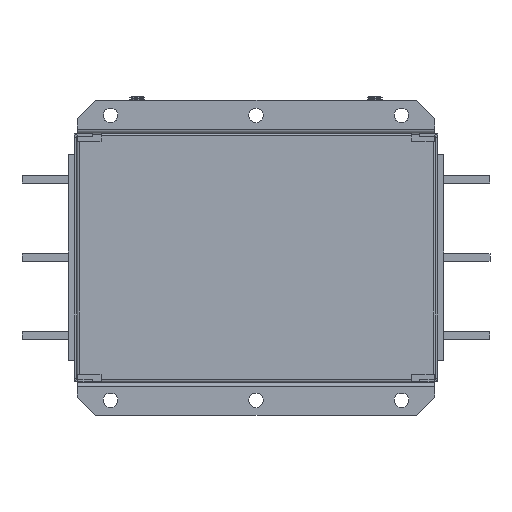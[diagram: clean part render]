
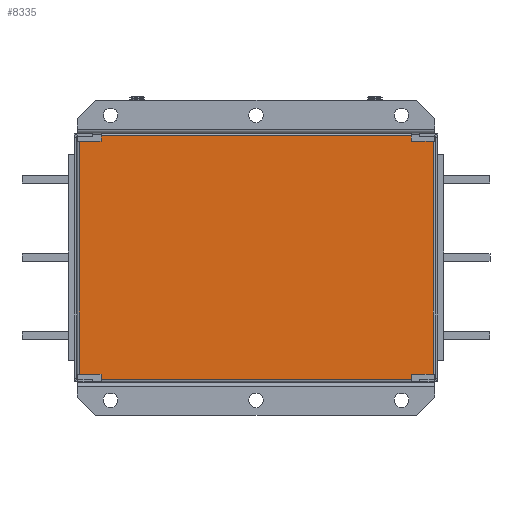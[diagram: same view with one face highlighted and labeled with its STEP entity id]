
A CAD part, front view. The second image highlights one B-rep face of the part: STEP entity #8335.
In plain terms, the highlighted planar face has unit normal (0, -1, 0) as drawn and (0, 1, 0) by its records, which use the part's own axes.
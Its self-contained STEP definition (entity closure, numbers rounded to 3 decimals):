
#793 = ORIENTED_EDGE ( 'NONE', *, *, #13365, .T. ) ;
#1283 = EDGE_CURVE ( 'NONE', #4107, #19736, #9332, .T. ) ;
#1443 = ORIENTED_EDGE ( 'NONE', *, *, #25929, .F. ) ;
#2033 = LINE ( 'NONE', #25691, #14030 ) ;
#2334 = VECTOR ( 'NONE', #23763, 1000. ) ;
#2530 = CARTESIAN_POINT ( 'NONE',  ( 128., 1.2, -100.7 ) ) ;
#2684 = VECTOR ( 'NONE', #6180, 1000. ) ;
#2722 = VERTEX_POINT ( 'NONE', #26342 ) ;
#3482 = VECTOR ( 'NONE', #14536, 1000. ) ;
#3497 = VECTOR ( 'NONE', #13075, 1000. ) ;
#3698 = CARTESIAN_POINT ( 'NONE',  ( 128., 1.2, 96. ) ) ;
#4107 = VERTEX_POINT ( 'NONE', #23779 ) ;
#4464 = ORIENTED_EDGE ( 'NONE', *, *, #13178, .T. ) ;
#4770 = DIRECTION ( 'NONE',  ( -1., 0., 0. ) ) ;
#5266 = DIRECTION ( 'NONE',  ( 1., 0., 0. ) ) ;
#5511 = VECTOR ( 'NONE', #4770, 1000. ) ;
#5725 = VERTEX_POINT ( 'NONE', #14591 ) ;
#6016 = EDGE_CURVE ( 'NONE', #19736, #23115, #21441, .T. ) ;
#6180 = DIRECTION ( 'NONE',  ( 0., 0., 1. ) ) ;
#8186 = CARTESIAN_POINT ( 'NONE',  ( -128., 1.2, -100.7 ) ) ;
#8319 = DIRECTION ( 'NONE',  ( 0., 0., -1. ) ) ;
#8335 = ADVANCED_FACE ( 'NONE', ( #22016 ), #19738, .T. ) ;
#9035 = ORIENTED_EDGE ( 'NONE', *, *, #20178, .F. ) ;
#9332 = LINE ( 'NONE', #23352, #27242 ) ;
#9375 = LINE ( 'NONE', #10715, #2684 ) ;
#10449 = LINE ( 'NONE', #21752, #27686 ) ;
#10648 = EDGE_CURVE ( 'NONE', #20672, #12234, #14837, .T. ) ;
#10715 = CARTESIAN_POINT ( 'NONE',  ( 128., 1.2, -101.3 ) ) ;
#10824 = VECTOR ( 'NONE', #5266, 1000. ) ;
#11907 = CARTESIAN_POINT ( 'NONE',  ( -146.075, 1.2, -96. ) ) ;
#12234 = VERTEX_POINT ( 'NONE', #8186 ) ;
#12247 = CARTESIAN_POINT ( 'NONE',  ( -128., 1.2, 96. ) ) ;
#12262 = DIRECTION ( 'NONE',  ( 0., 0., 1. ) ) ;
#13075 = DIRECTION ( 'NONE',  ( 0., 0., 1. ) ) ;
#13178 = EDGE_CURVE ( 'NONE', #16078, #23115, #22785, .T. ) ;
#13217 = EDGE_CURVE ( 'NONE', #27296, #19590, #2033, .T. ) ;
#13365 = EDGE_CURVE ( 'NONE', #4107, #2722, #10449, .T. ) ;
#13916 = CARTESIAN_POINT ( 'NONE',  ( 128., 1.2, 96. ) ) ;
#14030 = VECTOR ( 'NONE', #12262, 1000. ) ;
#14096 = EDGE_CURVE ( 'NONE', #23102, #5725, #9375, .T. ) ;
#14536 = DIRECTION ( 'NONE',  ( -1., 0., 0. ) ) ;
#14591 = CARTESIAN_POINT ( 'NONE',  ( 128., 1.2, -96. ) ) ;
#14688 = EDGE_LOOP ( 'NONE', ( #19910, #22814, #18940, #27450, #26805, #1443, #9035, #4464, #15186, #22699, #793, #26527 ) ) ;
#14837 = LINE ( 'NONE', #16550, #26019 ) ;
#15186 = ORIENTED_EDGE ( 'NONE', *, *, #6016, .F. ) ;
#15368 = EDGE_CURVE ( 'NONE', #5725, #2722, #19151, .T. ) ;
#15544 = CARTESIAN_POINT ( 'NONE',  ( 128., 1.2, 100.7 ) ) ;
#16078 = VERTEX_POINT ( 'NONE', #24409 ) ;
#16096 = CARTESIAN_POINT ( 'NONE',  ( -128., 1.2, -96. ) ) ;
#16534 = CARTESIAN_POINT ( 'NONE',  ( -128., 1.2, 100.7 ) ) ;
#16550 = CARTESIAN_POINT ( 'NONE',  ( -128., 1.2, -101.3 ) ) ;
#16747 = LINE ( 'NONE', #23240, #28619 ) ;
#16752 = CARTESIAN_POINT ( 'NONE',  ( -146.075, 1.2, 96. ) ) ;
#17522 = CARTESIAN_POINT ( 'NONE',  ( 128., 1.2, -96. ) ) ;
#17656 = EDGE_CURVE ( 'NONE', #23102, #12234, #28724, .T. ) ;
#18460 = VECTOR ( 'NONE', #24249, 1000. ) ;
#18680 = DIRECTION ( 'NONE',  ( 0., 0., -1. ) ) ;
#18940 = ORIENTED_EDGE ( 'NONE', *, *, #10648, .F. ) ;
#19070 = DIRECTION ( 'NONE',  ( 0., 0., 1. ) ) ;
#19151 = LINE ( 'NONE', #17522, #18460 ) ;
#19256 = DIRECTION ( 'NONE',  ( 0., 1., 0. ) ) ;
#19315 = VERTEX_POINT ( 'NONE', #26965 ) ;
#19590 = VERTEX_POINT ( 'NONE', #16752 ) ;
#19736 = VERTEX_POINT ( 'NONE', #3698 ) ;
#19738 = PLANE ( 'NONE',  #28735 ) ;
#19910 = ORIENTED_EDGE ( 'NONE', *, *, #14096, .F. ) ;
#20178 = EDGE_CURVE ( 'NONE', #16078, #19315, #16747, .T. ) ;
#20426 = CARTESIAN_POINT ( 'NONE',  ( -146.675, 1.2, -101.3 ) ) ;
#20672 = VERTEX_POINT ( 'NONE', #16096 ) ;
#21422 = LINE ( 'NONE', #12247, #3482 ) ;
#21441 = LINE ( 'NONE', #13916, #3497 ) ;
#21537 = CARTESIAN_POINT ( 'NONE',  ( -146.675, 1.2, -96. ) ) ;
#21752 = CARTESIAN_POINT ( 'NONE',  ( 146.075, 1.2, 96. ) ) ;
#22016 = FACE_OUTER_BOUND ( 'NONE', #14688, .T. ) ;
#22317 = EDGE_CURVE ( 'NONE', #27296, #20672, #26217, .T. ) ;
#22608 = DIRECTION ( 'NONE',  ( 0., 0., -1. ) ) ;
#22699 = ORIENTED_EDGE ( 'NONE', *, *, #1283, .F. ) ;
#22785 = LINE ( 'NONE', #16534, #10824 ) ;
#22814 = ORIENTED_EDGE ( 'NONE', *, *, #17656, .T. ) ;
#23102 = VERTEX_POINT ( 'NONE', #28926 ) ;
#23115 = VERTEX_POINT ( 'NONE', #15544 ) ;
#23240 = CARTESIAN_POINT ( 'NONE',  ( -128., 1.2, 96. ) ) ;
#23352 = CARTESIAN_POINT ( 'NONE',  ( 146.675, 1.2, 96. ) ) ;
#23763 = DIRECTION ( 'NONE',  ( 1., 0., 0. ) ) ;
#23779 = CARTESIAN_POINT ( 'NONE',  ( 146.075, 1.2, 96. ) ) ;
#24249 = DIRECTION ( 'NONE',  ( 1., 0., 0. ) ) ;
#24409 = CARTESIAN_POINT ( 'NONE',  ( -128., 1.2, 100.7 ) ) ;
#25691 = CARTESIAN_POINT ( 'NONE',  ( -146.075, 1.2, -96. ) ) ;
#25929 = EDGE_CURVE ( 'NONE', #19315, #19590, #21422, .T. ) ;
#26019 = VECTOR ( 'NONE', #22608, 1000. ) ;
#26217 = LINE ( 'NONE', #21537, #2334 ) ;
#26342 = CARTESIAN_POINT ( 'NONE',  ( 146.075, 1.2, -96. ) ) ;
#26527 = ORIENTED_EDGE ( 'NONE', *, *, #15368, .F. ) ;
#26805 = ORIENTED_EDGE ( 'NONE', *, *, #13217, .T. ) ;
#26965 = CARTESIAN_POINT ( 'NONE',  ( -128., 1.2, 96. ) ) ;
#27242 = VECTOR ( 'NONE', #28544, 1000. ) ;
#27296 = VERTEX_POINT ( 'NONE', #11907 ) ;
#27450 = ORIENTED_EDGE ( 'NONE', *, *, #22317, .F. ) ;
#27686 = VECTOR ( 'NONE', #8319, 1000. ) ;
#28544 = DIRECTION ( 'NONE',  ( -1., 0., 0. ) ) ;
#28619 = VECTOR ( 'NONE', #18680, 1000. ) ;
#28724 = LINE ( 'NONE', #2530, #5511 ) ;
#28735 = AXIS2_PLACEMENT_3D ( 'NONE', #20426, #19256, #19070 ) ;
#28926 = CARTESIAN_POINT ( 'NONE',  ( 128., 1.2, -100.7 ) ) ;
